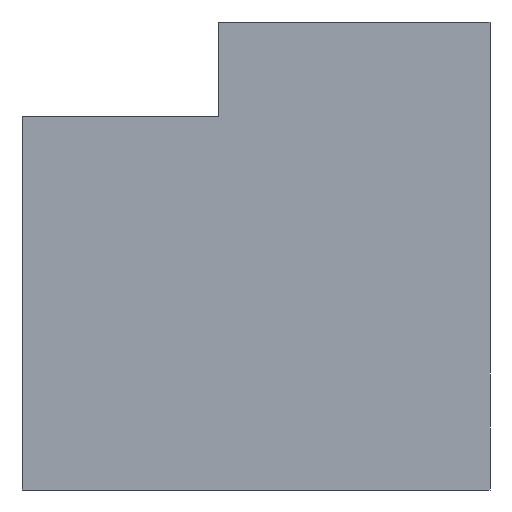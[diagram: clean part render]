
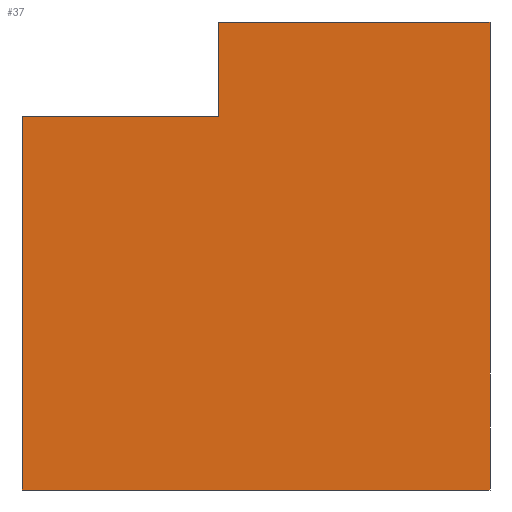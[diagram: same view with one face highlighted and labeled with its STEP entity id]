
A CAD part, front view. The second image highlights one B-rep face of the part: STEP entity #37.
In plain terms, the highlighted planar face has unit normal (0, -1, 0).
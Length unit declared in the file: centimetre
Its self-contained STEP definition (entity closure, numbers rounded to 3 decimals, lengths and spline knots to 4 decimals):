
#4 = LINE ( 'NONE', #93, #214 ) ;
#17 = CARTESIAN_POINT ( 'NONE',  ( 0., 0., 797.4756 ) ) ;
#21 = VERTEX_POINT ( 'NONE', #48 ) ;
#36 = VECTOR ( 'NONE', #186, 100. ) ;
#37 = ADVANCED_FACE ( 'NONE', ( #206 ), #356, .F. ) ;
#48 = CARTESIAN_POINT ( 'NONE',  ( 0., 0., 797.4756 ) ) ;
#57 = DIRECTION ( 'NONE',  ( -1., 0., 0. ) ) ;
#89 = VECTOR ( 'NONE', #457, 100. ) ;
#93 = CARTESIAN_POINT ( 'NONE',  ( 1000., 0., 1000. ) ) ;
#105 = EDGE_CURVE ( 'NONE', #401, #21, #332, .T. ) ;
#129 = CARTESIAN_POINT ( 'NONE',  ( 0., 0., 1000. ) ) ;
#178 = VERTEX_POINT ( 'NONE', #402 ) ;
#182 = ORIENTED_EDGE ( 'NONE', *, *, #105, .T. ) ;
#186 = DIRECTION ( 'NONE',  ( 0., 0., -1. ) ) ;
#206 = FACE_OUTER_BOUND ( 'NONE', #278, .T. ) ;
#211 = ORIENTED_EDGE ( 'NONE', *, *, #495, .F. ) ;
#214 = VECTOR ( 'NONE', #440, 100. ) ;
#230 = CARTESIAN_POINT ( 'NONE',  ( 1000., 0., 0. ) ) ;
#233 = LINE ( 'NONE', #378, #36 ) ;
#237 = EDGE_CURVE ( 'NONE', #21, #397, #501, .T. ) ;
#241 = ORIENTED_EDGE ( 'NONE', *, *, #237, .T. ) ;
#243 = CARTESIAN_POINT ( 'NONE',  ( 0., 0., 1000. ) ) ;
#250 = DIRECTION ( 'NONE',  ( 0., 0., 1. ) ) ;
#262 = DIRECTION ( 'NONE',  ( 1., 0., 0. ) ) ;
#274 = LINE ( 'NONE', #243, #476 ) ;
#278 = EDGE_LOOP ( 'NONE', ( #475, #182, #241, #477, #211, #393 ) ) ;
#280 = VECTOR ( 'NONE', #262, 100. ) ;
#285 = DIRECTION ( 'NONE',  ( 0., 1., 0. ) ) ;
#286 = DIRECTION ( 'NONE',  ( 1., 0., 0. ) ) ;
#290 = VECTOR ( 'NONE', #57, 100. ) ;
#306 = CARTESIAN_POINT ( 'NONE',  ( 0., 0., 1000. ) ) ;
#315 = VERTEX_POINT ( 'NONE', #377 ) ;
#332 = LINE ( 'NONE', #17, #290 ) ;
#333 = EDGE_CURVE ( 'NONE', #397, #348, #423, .T. ) ;
#345 = CARTESIAN_POINT ( 'NONE',  ( 0., 0., 0. ) ) ;
#347 = CARTESIAN_POINT ( 'NONE',  ( 0., 0., 0. ) ) ;
#348 = VERTEX_POINT ( 'NONE', #230 ) ;
#356 = PLANE ( 'NONE',  #489 ) ;
#377 = CARTESIAN_POINT ( 'NONE',  ( 1000., 0., 1000. ) ) ;
#378 = CARTESIAN_POINT ( 'NONE',  ( 419.333, 0., 797.4756 ) ) ;
#393 = ORIENTED_EDGE ( 'NONE', *, *, #442, .F. ) ;
#397 = VERTEX_POINT ( 'NONE', #345 ) ;
#399 = EDGE_CURVE ( 'NONE', #178, #401, #233, .T. ) ;
#401 = VERTEX_POINT ( 'NONE', #502 ) ;
#402 = CARTESIAN_POINT ( 'NONE',  ( 419.333, 0., 1000. ) ) ;
#423 = LINE ( 'NONE', #347, #280 ) ;
#440 = DIRECTION ( 'NONE',  ( 0., 0., -1. ) ) ;
#442 = EDGE_CURVE ( 'NONE', #178, #315, #274, .T. ) ;
#457 = DIRECTION ( 'NONE',  ( 0., 0., -1. ) ) ;
#475 = ORIENTED_EDGE ( 'NONE', *, *, #399, .T. ) ;
#476 = VECTOR ( 'NONE', #286, 100. ) ;
#477 = ORIENTED_EDGE ( 'NONE', *, *, #333, .T. ) ;
#489 = AXIS2_PLACEMENT_3D ( 'NONE', #129, #285, #250 ) ;
#495 = EDGE_CURVE ( 'NONE', #315, #348, #4, .T. ) ;
#501 = LINE ( 'NONE', #306, #89 ) ;
#502 = CARTESIAN_POINT ( 'NONE',  ( 419.333, 0., 797.4756 ) ) ;
